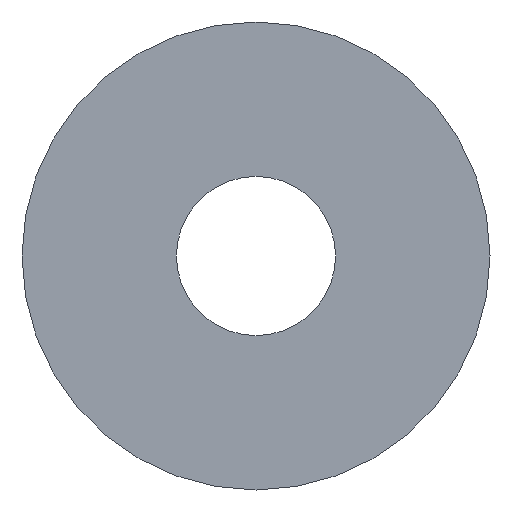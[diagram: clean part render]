
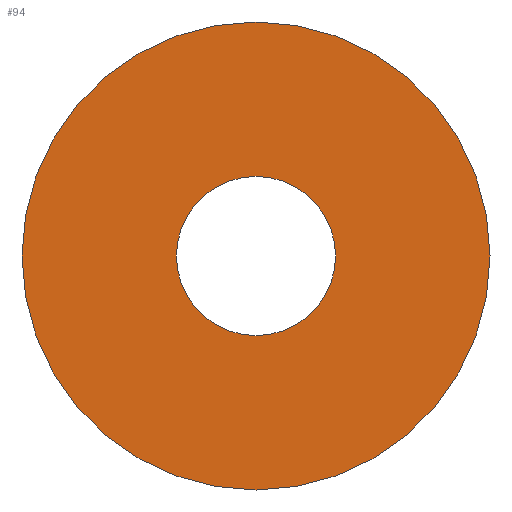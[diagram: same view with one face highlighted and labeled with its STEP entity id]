
A CAD part, front view. The second image highlights one B-rep face of the part: STEP entity #94.
In plain terms, the highlighted planar face has unit normal (0, -1, 0).
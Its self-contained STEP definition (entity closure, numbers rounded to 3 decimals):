
#1 = DIRECTION ( 'NONE',  ( 0., 0., 1. ) ) ;
#4 = CIRCLE ( 'NONE', #7, 8.5 ) ;
#5 = VERTEX_POINT ( 'NONE', #203 ) ;
#7 = AXIS2_PLACEMENT_3D ( 'NONE', #19, #17, #13 ) ;
#8 = DIRECTION ( 'NONE',  ( 0., 0., 1. ) ) ;
#9 = DIRECTION ( 'NONE',  ( 0., 1., 0. ) ) ;
#11 = CARTESIAN_POINT ( 'NONE',  ( 0., 0., 0. ) ) ;
#13 = DIRECTION ( 'NONE',  ( 0., 0., 1. ) ) ;
#17 = DIRECTION ( 'NONE',  ( 0., 1., 0. ) ) ;
#19 = CARTESIAN_POINT ( 'NONE',  ( 0., 0., 0. ) ) ;
#23 = ORIENTED_EDGE ( 'NONE', *, *, #36, .F. ) ;
#34 = CARTESIAN_POINT ( 'NONE',  ( 0., 0., 0. ) ) ;
#36 = EDGE_CURVE ( 'NONE', #78, #98, #69, .T. ) ;
#37 = CARTESIAN_POINT ( 'NONE',  ( 0., 0., -8.5 ) ) ;
#66 = CIRCLE ( 'NONE', #165, 25. ) ;
#69 = CIRCLE ( 'NONE', #195, 25. ) ;
#78 = VERTEX_POINT ( 'NONE', #130 ) ;
#83 = EDGE_LOOP ( 'NONE', ( #23, #242 ) ) ;
#84 = CARTESIAN_POINT ( 'NONE',  ( 0., 0., 25. ) ) ;
#94 = ADVANCED_FACE ( 'NONE', ( #132, #192 ), #125, .F. ) ;
#97 = ORIENTED_EDGE ( 'NONE', *, *, #207, .T. ) ;
#98 = VERTEX_POINT ( 'NONE', #84 ) ;
#100 = AXIS2_PLACEMENT_3D ( 'NONE', #115, #103, #101 ) ;
#101 = DIRECTION ( 'NONE',  ( 0., 0., 1. ) ) ;
#103 = DIRECTION ( 'NONE',  ( 0., 1., 0. ) ) ;
#111 = DIRECTION ( 'NONE',  ( 0., 1., 0. ) ) ;
#115 = CARTESIAN_POINT ( 'NONE',  ( 0., 0., 0. ) ) ;
#125 = PLANE ( 'NONE',  #100 ) ;
#130 = CARTESIAN_POINT ( 'NONE',  ( 0., 0., -25. ) ) ;
#132 = FACE_OUTER_BOUND ( 'NONE', #83, .T. ) ;
#164 = DIRECTION ( 'NONE',  ( 0., 0., 1. ) ) ;
#165 = AXIS2_PLACEMENT_3D ( 'NONE', #34, #111, #1 ) ;
#166 = DIRECTION ( 'NONE',  ( 0., 1., 0. ) ) ;
#167 = CARTESIAN_POINT ( 'NONE',  ( 0., 0., 0. ) ) ;
#184 = EDGE_LOOP ( 'NONE', ( #186, #97 ) ) ;
#186 = ORIENTED_EDGE ( 'NONE', *, *, #191, .T. ) ;
#191 = EDGE_CURVE ( 'NONE', #201, #5, #4, .T. ) ;
#192 = FACE_BOUND ( 'NONE', #184, .T. ) ;
#195 = AXIS2_PLACEMENT_3D ( 'NONE', #167, #166, #164 ) ;
#201 = VERTEX_POINT ( 'NONE', #37 ) ;
#203 = CARTESIAN_POINT ( 'NONE',  ( 0., 0., 8.5 ) ) ;
#207 = EDGE_CURVE ( 'NONE', #5, #201, #228, .T. ) ;
#215 = EDGE_CURVE ( 'NONE', #98, #78, #66, .T. ) ;
#225 = AXIS2_PLACEMENT_3D ( 'NONE', #11, #9, #8 ) ;
#228 = CIRCLE ( 'NONE', #225, 8.5 ) ;
#242 = ORIENTED_EDGE ( 'NONE', *, *, #215, .F. ) ;
